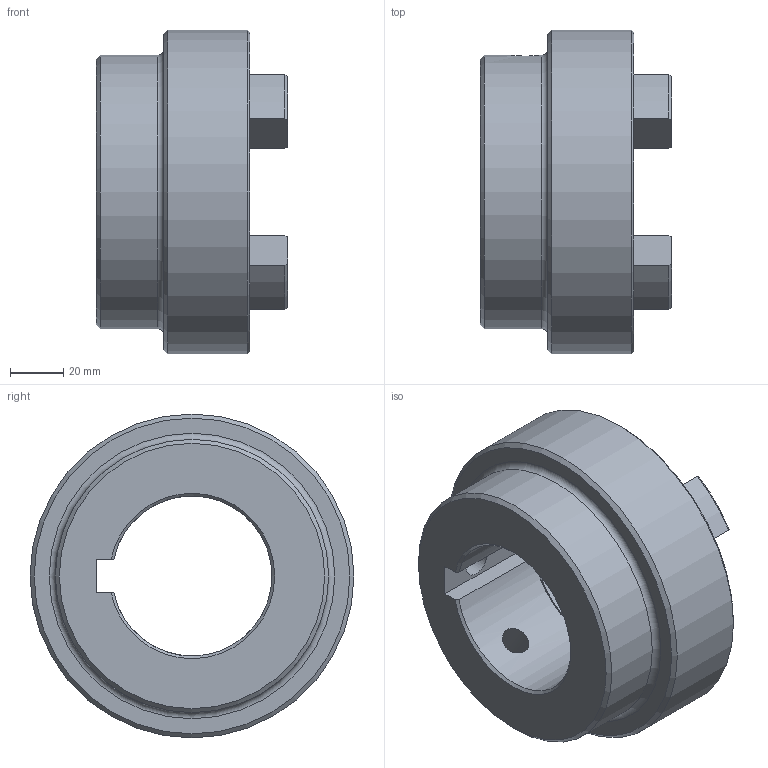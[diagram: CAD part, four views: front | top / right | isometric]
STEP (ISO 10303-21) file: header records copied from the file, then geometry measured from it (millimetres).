
FILE_DESCRIPTION (( 'STEP AP203' ), '1' );
FILE_NAME ('RC5.step', '2024-07-25T13:39:20', ( 'Adlan' ), ( '' ), 'SwSTEP 2.0', 'SolidWorks 2013', '' );
FILE_SCHEMA (( 'CONFIG_CONTROL_DESIGN' ));
Length unit declared in the file: inch
Products named in the file (1): RC5
Bounding box: 72.14 x 122.17 x 122.17 mm (x, y, z)
Volume: 355335.1 mm3; surface area: 59022.7 mm2
Topology: 1 solids, 1 shells, 84 faces, 224 edges, 143 vertices
Faces by surface type: cylinder 33, plane 22, torus 17, cone 12
Full cylindrical faces by diameter (mm): 10.716 x2, 103.124 x1, 122.174 x1
Entity records: 3015 total; most frequent: CARTESIAN_POINT 841, DIRECTION 452, ORIENTED_EDGE 430, EDGE_CURVE 215, AXIS2_PLACEMENT_3D 181, VERTEX_POINT 142, EDGE_LOOP 99, CIRCLE 96
